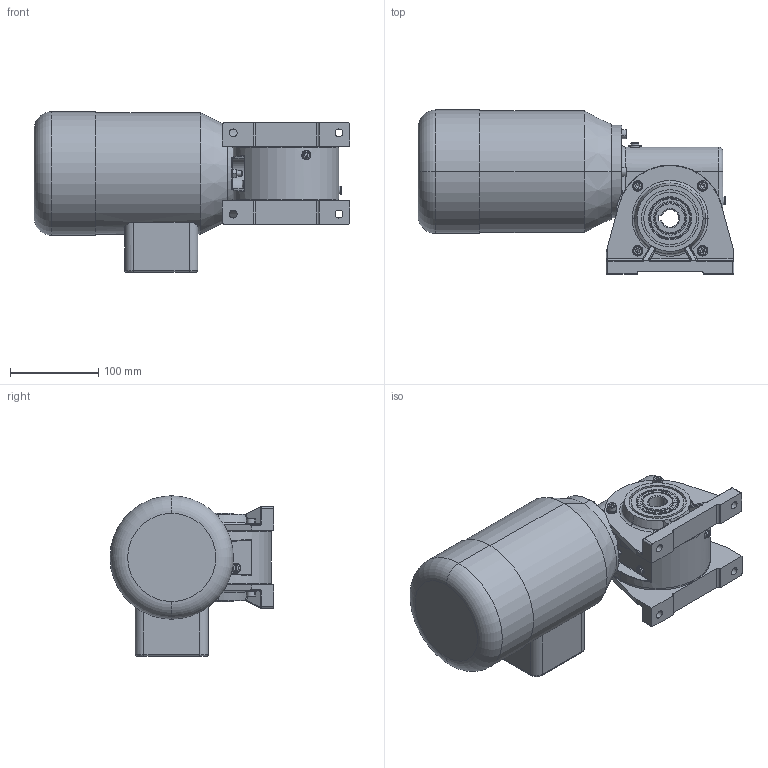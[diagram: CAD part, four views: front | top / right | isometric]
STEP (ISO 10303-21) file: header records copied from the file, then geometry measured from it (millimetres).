
FILE_DESCRIPTION (( 'STEP AP214' ), '1' );
FILE_NAME ('SN8SHH_370W_1400Upm_Drehstrom-Motor_A.STEP', '2021-09-21T09:02:05', ( '' ), ( '' ), 'SwSTEP 2.0', 'SolidWorks 2019', '' );
FILE_SCHEMA (( 'AUTOMOTIVE_DESIGN' ));
Length unit declared in the file: millimetre
Products named in the file (13): 08FH-W-001_3D_Export; hex nut style 1 gradeab_din_Hexagon Nut ISO 4032 - M6 - D - C; U-Seal Ring Ø5; Kupferscheibe Ø6x12x1,5 DIN7603 A; socket set screw flat point_din_DIN 913 - M6 x 25-C; SN8SHH_370W_1400Upm_Drehstrom-Motor_A; 08B-G-003_3D_Export; 08-M-164 I 370W_1400Upm; slotted pan head screw_din_DIN EN ISO 1580 - M5 x 6 - 6C; 08SHH-D-001_3D_Export; SN8SHH_3D_Export; NBR_WDR_35x47x7; socket head cap screw_din_DIN 912 M6 x 20 --- 20C
Assembly tree (37 placements, depth 3):
  SN8SHH_370W_1400Upm_Drehstrom-Motor_A
    SN8SHH_3D_Export
      08B-G-003_3D_Export
      08FH-W-001_3D_Export
      08SHH-D-001_3D_Export  x2
      NBR_WDR_35x47x7  x2
      socket head cap screw_din_DIN 912 M6 x 20 --- 20C  x11
      slotted pan head screw_din_DIN EN ISO 1580 - M5 x 6 - 6C  x4
      socket set screw flat point_din_DIN 913 - M6 x 25-C
      hex nut style 1 gradeab_din_Hexagon Nut ISO 4032 - M6 - D - C
      Kupferscheibe Ø6x12x1,5 DIN7603 A  x8
      U-Seal Ring Ø5  x4
    08-M-164 I 370W_1400Upm
Bounding box: 358.5 x 186 x 182 mm (x, y, z)
Volume: 4787748.1 mm3; surface area: 343660.5 mm2
Topology: 36 solids, 36 shells, 970 faces, 2190 edges, 1320 vertices
Faces by surface type: cylinder 346, plane 342, cone 127, torus 104, bspline 51
Entity records: 16289 total; most frequent: CARTESIAN_POINT 5122, DIRECTION 2295, ORIENTED_EDGE 2086, EDGE_CURVE 1043, AXIS2_PLACEMENT_3D 950, VERTEX_POINT 645, EDGE_LOOP 530, CIRCLE 484
